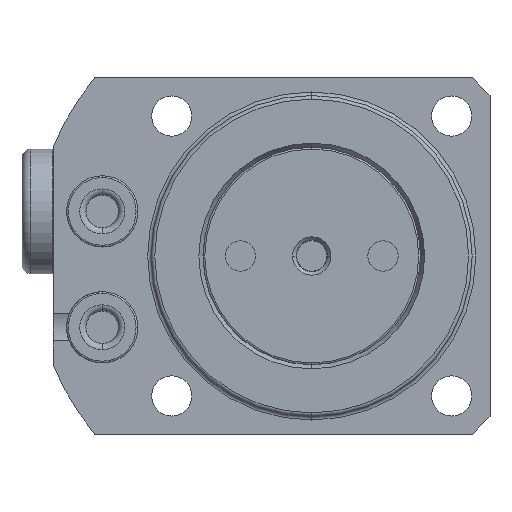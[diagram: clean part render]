
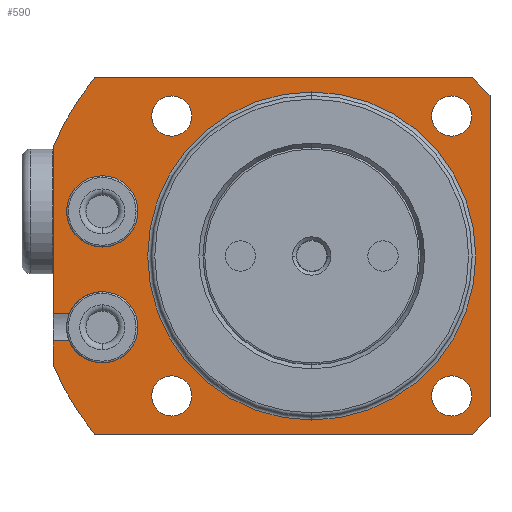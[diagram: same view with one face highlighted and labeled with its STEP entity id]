
A CAD part, front view. The second image highlights one B-rep face of the part: STEP entity #590.
In plain terms, the highlighted planar face has unit normal (0, -1, 0).
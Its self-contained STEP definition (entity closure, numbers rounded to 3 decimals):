
#267=PLANE('',#3778);
#326=FACE_BOUND('',#1059,.T.);
#327=FACE_BOUND('',#1060,.T.);
#328=FACE_BOUND('',#1061,.T.);
#329=FACE_BOUND('',#1062,.T.);
#330=FACE_BOUND('',#1063,.T.);
#331=FACE_BOUND('',#1064,.T.);
#332=FACE_BOUND('',#1065,.T.);
#590=ADVANCED_FACE('',(#326,#327,#328,#329,#330,#331,#332),#267,.T.);
#1059=EDGE_LOOP('',(#1761,#1762,#1763,#1764,#1765,#1766,#1767,#1768,#1769,
#1770,#1771,#1772,#1773,#1774));
#1060=EDGE_LOOP('',(#1775,#1776));
#1061=EDGE_LOOP('',(#1777,#1778));
#1062=EDGE_LOOP('',(#1779,#1780));
#1063=EDGE_LOOP('',(#1781,#1782));
#1064=EDGE_LOOP('',(#1783,#1784));
#1065=EDGE_LOOP('',(#1785,#1786));
#1343=LINE('',#5993,#1504);
#1344=LINE('',#5996,#1505);
#1345=LINE('',#5998,#1506);
#1346=LINE('',#6002,#1507);
#1347=LINE('',#6004,#1508);
#1348=LINE('',#6006,#1509);
#1349=LINE('',#6008,#1510);
#1350=LINE('',#6010,#1511);
#1351=LINE('',#6014,#1512);
#1504=VECTOR('',#4462,1.);
#1505=VECTOR('',#4465,1.);
#1506=VECTOR('',#4466,1.);
#1507=VECTOR('',#4469,1.);
#1508=VECTOR('',#4470,1.);
#1509=VECTOR('',#4471,1.);
#1510=VECTOR('',#4472,1.);
#1511=VECTOR('',#4473,1.);
#1512=VECTOR('',#4476,1.);
#1761=ORIENTED_EDGE('',*,*,#3029,.F.);
#1762=ORIENTED_EDGE('',*,*,#2908,.F.);
#1763=ORIENTED_EDGE('',*,*,#3030,.F.);
#1764=ORIENTED_EDGE('',*,*,#2910,.F.);
#1765=ORIENTED_EDGE('',*,*,#3031,.F.);
#1766=ORIENTED_EDGE('',*,*,#3032,.T.);
#1767=ORIENTED_EDGE('',*,*,#3033,.T.);
#1768=ORIENTED_EDGE('',*,*,#3034,.T.);
#1769=ORIENTED_EDGE('',*,*,#3035,.T.);
#1770=ORIENTED_EDGE('',*,*,#3036,.T.);
#1771=ORIENTED_EDGE('',*,*,#3037,.T.);
#1772=ORIENTED_EDGE('',*,*,#3038,.T.);
#1773=ORIENTED_EDGE('',*,*,#3039,.T.);
#1774=ORIENTED_EDGE('',*,*,#3040,.T.);
#1775=ORIENTED_EDGE('',*,*,#3041,.F.);
#1776=ORIENTED_EDGE('',*,*,#2904,.F.);
#1777=ORIENTED_EDGE('',*,*,#2932,.F.);
#1778=ORIENTED_EDGE('',*,*,#3042,.F.);
#1779=ORIENTED_EDGE('',*,*,#2940,.F.);
#1780=ORIENTED_EDGE('',*,*,#3043,.F.);
#1781=ORIENTED_EDGE('',*,*,#2948,.F.);
#1782=ORIENTED_EDGE('',*,*,#3044,.F.);
#1783=ORIENTED_EDGE('',*,*,#2956,.F.);
#1784=ORIENTED_EDGE('',*,*,#3045,.F.);
#1785=ORIENTED_EDGE('',*,*,#3046,.F.);
#1786=ORIENTED_EDGE('',*,*,#3006,.F.);
#2601=VERTEX_POINT('',#5440);
#2602=VERTEX_POINT('',#5442);
#2605=VERTEX_POINT('',#5449);
#2606=VERTEX_POINT('',#5451);
#2607=VERTEX_POINT('',#5456);
#2608=VERTEX_POINT('',#5458);
#2627=VERTEX_POINT('',#5596);
#2628=VERTEX_POINT('',#5597);
#2635=VERTEX_POINT('',#5644);
#2636=VERTEX_POINT('',#5645);
#2643=VERTEX_POINT('',#5692);
#2644=VERTEX_POINT('',#5693);
#2651=VERTEX_POINT('',#5740);
#2652=VERTEX_POINT('',#5741);
#2691=VERTEX_POINT('',#5872);
#2692=VERTEX_POINT('',#5874);
#2707=VERTEX_POINT('',#5994);
#2708=VERTEX_POINT('',#5997);
#2709=VERTEX_POINT('',#5999);
#2710=VERTEX_POINT('',#6001);
#2711=VERTEX_POINT('',#6003);
#2712=VERTEX_POINT('',#6005);
#2713=VERTEX_POINT('',#6007);
#2714=VERTEX_POINT('',#6009);
#2715=VERTEX_POINT('',#6011);
#2716=VERTEX_POINT('',#6013);
#2904=EDGE_CURVE('',#2601,#2602,#3383,.T.);
#2908=EDGE_CURVE('',#2605,#2606,#3385,.T.);
#2910=EDGE_CURVE('',#2607,#2608,#3386,.T.);
#2932=EDGE_CURVE('',#2627,#2628,#3392,.T.);
#2940=EDGE_CURVE('',#2635,#2636,#3395,.T.);
#2948=EDGE_CURVE('',#2643,#2644,#3398,.T.);
#2956=EDGE_CURVE('',#2651,#2652,#3401,.T.);
#3006=EDGE_CURVE('',#2691,#2692,#3432,.T.);
#3029=EDGE_CURVE('',#2606,#2707,#1343,.T.);
#3030=EDGE_CURVE('',#2608,#2605,#3442,.T.);
#3031=EDGE_CURVE('',#2708,#2607,#1344,.T.);
#3032=EDGE_CURVE('',#2708,#2709,#1345,.T.);
#3033=EDGE_CURVE('',#2709,#2710,#3443,.T.);
#3034=EDGE_CURVE('',#2710,#2711,#1346,.T.);
#3035=EDGE_CURVE('',#2711,#2712,#1347,.T.);
#3036=EDGE_CURVE('',#2712,#2713,#1348,.T.);
#3037=EDGE_CURVE('',#2713,#2714,#1349,.T.);
#3038=EDGE_CURVE('',#2714,#2715,#1350,.T.);
#3039=EDGE_CURVE('',#2715,#2716,#3444,.T.);
#3040=EDGE_CURVE('',#2716,#2707,#1351,.T.);
#3041=EDGE_CURVE('',#2602,#2601,#3445,.T.);
#3042=EDGE_CURVE('',#2628,#2627,#3446,.T.);
#3043=EDGE_CURVE('',#2636,#2635,#3447,.T.);
#3044=EDGE_CURVE('',#2644,#2643,#3448,.T.);
#3045=EDGE_CURVE('',#2652,#2651,#3449,.T.);
#3046=EDGE_CURVE('',#2692,#2691,#3450,.T.);
#3383=CIRCLE('',#3678,4.);
#3385=CIRCLE('',#3681,4.);
#3386=CIRCLE('',#3682,4.);
#3392=CIRCLE('',#3695,2.25);
#3395=CIRCLE('',#3700,2.25);
#3398=CIRCLE('',#3705,2.25);
#3401=CIRCLE('',#3710,2.25);
#3432=CIRCLE('',#3754,18.4);
#3442=CIRCLE('',#3769,4.);
#3443=CIRCLE('',#3770,31.5);
#3444=CIRCLE('',#3771,31.5);
#3445=CIRCLE('',#3772,4.);
#3446=CIRCLE('',#3773,2.25);
#3447=CIRCLE('',#3774,2.25);
#3448=CIRCLE('',#3775,2.25);
#3449=CIRCLE('',#3776,2.25);
#3450=CIRCLE('',#3777,18.4);
#3678=AXIS2_PLACEMENT_3D('',#5441,#4229,#4230);
#3681=AXIS2_PLACEMENT_3D('',#5450,#4237,#4238);
#3682=AXIS2_PLACEMENT_3D('',#5457,#4239,#4240);
#3695=AXIS2_PLACEMENT_3D('',#5595,#4278,#4279);
#3700=AXIS2_PLACEMENT_3D('',#5643,#4292,#4293);
#3705=AXIS2_PLACEMENT_3D('',#5691,#4306,#4307);
#3710=AXIS2_PLACEMENT_3D('',#5739,#4320,#4321);
#3754=AXIS2_PLACEMENT_3D('',#5873,#4426,#4427);
#3769=AXIS2_PLACEMENT_3D('',#5995,#4463,#4464);
#3770=AXIS2_PLACEMENT_3D('',#6000,#4467,#4468);
#3771=AXIS2_PLACEMENT_3D('',#6012,#4474,#4475);
#3772=AXIS2_PLACEMENT_3D('',#6015,#4477,#4478);
#3773=AXIS2_PLACEMENT_3D('',#6016,#4479,#4480);
#3774=AXIS2_PLACEMENT_3D('',#6017,#4481,#4482);
#3775=AXIS2_PLACEMENT_3D('',#6018,#4483,#4484);
#3776=AXIS2_PLACEMENT_3D('',#6019,#4485,#4486);
#3777=AXIS2_PLACEMENT_3D('',#6020,#4487,#4488);
#3778=AXIS2_PLACEMENT_3D('',#6021,#4489,#4490);
#4229=DIRECTION('',(0.,-1.,0.));
#4230=DIRECTION('',(0.,0.,-1.));
#4237=DIRECTION('',(0.,-1.,0.));
#4238=DIRECTION('',(0.,0.,-1.));
#4239=DIRECTION('',(0.,-1.,0.));
#4240=DIRECTION('',(0.,0.,-1.));
#4278=DIRECTION('',(0.,-1.,0.));
#4279=DIRECTION('',(0.,0.,-1.));
#4292=DIRECTION('',(0.,-1.,0.));
#4293=DIRECTION('',(0.,0.,-1.));
#4306=DIRECTION('',(0.,-1.,0.));
#4307=DIRECTION('',(0.,0.,-1.));
#4320=DIRECTION('',(0.,-1.,0.));
#4321=DIRECTION('',(0.,0.,-1.));
#4426=DIRECTION('',(0.,-1.,0.));
#4427=DIRECTION('',(0.,0.,-1.));
#4462=DIRECTION('',(-1.,0.,0.));
#4463=DIRECTION('',(0.,-1.,0.));
#4464=DIRECTION('',(0.,0.,-1.));
#4465=DIRECTION('',(1.,0.,0.));
#4466=DIRECTION('',(0.,0.,-1.));
#4467=DIRECTION('',(0.,-1.,0.));
#4468=DIRECTION('',(0.,0.,-1.));
#4469=DIRECTION('',(1.,0.,0.));
#4470=DIRECTION('',(0.707,0.,0.707));
#4471=DIRECTION('',(0.,0.,1.));
#4472=DIRECTION('',(-0.707,0.,0.707));
#4473=DIRECTION('',(-1.,0.,0.));
#4474=DIRECTION('',(0.,-1.,0.));
#4475=DIRECTION('',(0.,0.,-1.));
#4476=DIRECTION('',(0.,0.,-1.));
#4477=DIRECTION('',(0.,-1.,0.));
#4478=DIRECTION('',(0.,0.,-1.));
#4479=DIRECTION('',(0.,-1.,0.));
#4480=DIRECTION('',(0.,0.,-1.));
#4481=DIRECTION('',(0.,-1.,0.));
#4482=DIRECTION('',(0.,0.,-1.));
#4483=DIRECTION('',(0.,-1.,0.));
#4484=DIRECTION('',(0.,0.,-1.));
#4485=DIRECTION('',(0.,-1.,0.));
#4486=DIRECTION('',(0.,0.,-1.));
#4487=DIRECTION('',(0.,-1.,0.));
#4488=DIRECTION('',(0.,0.,-1.));
#4489=DIRECTION('',(0.,-1.,0.));
#4490=DIRECTION('',(0.,0.,1.));
#5440=CARTESIAN_POINT('',(-23.5,27.628,9.));
#5441=CARTESIAN_POINT('',(-23.5,27.628,5.));
#5442=CARTESIAN_POINT('',(-23.5,27.628,1.));
#5449=CARTESIAN_POINT('',(-23.5,27.628,-4.));
#5450=CARTESIAN_POINT('',(-23.5,27.628,-8.));
#5451=CARTESIAN_POINT('',(-27.2,27.628,-6.48));
#5456=CARTESIAN_POINT('',(-27.2,27.628,-9.52));
#5457=CARTESIAN_POINT('',(-23.5,27.628,-8.));
#5458=CARTESIAN_POINT('',(-23.5,27.628,-12.));
#5595=CARTESIAN_POINT('',(-15.7,27.628,-15.7));
#5596=CARTESIAN_POINT('',(-15.7,27.628,-13.45));
#5597=CARTESIAN_POINT('',(-15.7,27.628,-17.95));
#5643=CARTESIAN_POINT('',(-15.7,27.628,15.7));
#5644=CARTESIAN_POINT('',(-15.7,27.628,17.95));
#5645=CARTESIAN_POINT('',(-15.7,27.628,13.45));
#5691=CARTESIAN_POINT('',(15.7,27.628,15.7));
#5692=CARTESIAN_POINT('',(15.7,27.628,17.95));
#5693=CARTESIAN_POINT('',(15.7,27.628,13.45));
#5739=CARTESIAN_POINT('',(15.7,27.628,-15.7));
#5740=CARTESIAN_POINT('',(15.7,27.628,-13.45));
#5741=CARTESIAN_POINT('',(15.7,27.628,-17.95));
#5872=CARTESIAN_POINT('',(0.,27.628,18.4));
#5873=CARTESIAN_POINT('',(0.,27.628,0.));
#5874=CARTESIAN_POINT('',(0.,27.628,-18.4));
#5993=CARTESIAN_POINT('',(-24.,27.628,-6.48));
#5994=CARTESIAN_POINT('',(-29.,27.628,-6.48));
#5995=CARTESIAN_POINT('',(-23.5,27.628,-8.));
#5996=CARTESIAN_POINT('',(-24.,27.628,-9.52));
#5997=CARTESIAN_POINT('',(-29.,27.628,-9.52));
#5998=CARTESIAN_POINT('',(-29.,27.628,0.));
#5999=CARTESIAN_POINT('',(-29.,27.628,-12.298));
#6000=CARTESIAN_POINT('',(0.,27.628,0.));
#6001=CARTESIAN_POINT('',(-24.336,27.628,-20.));
#6002=CARTESIAN_POINT('',(31.5,27.628,-20.));
#6003=CARTESIAN_POINT('',(18.,27.628,-20.));
#6004=CARTESIAN_POINT('',(34.75,27.628,-3.25));
#6005=CARTESIAN_POINT('',(20.,27.628,-18.));
#6006=CARTESIAN_POINT('',(20.,27.628,0.));
#6007=CARTESIAN_POINT('',(20.,27.628,18.));
#6008=CARTESIAN_POINT('',(34.75,27.628,3.25));
#6009=CARTESIAN_POINT('',(18.,27.628,20.));
#6010=CARTESIAN_POINT('',(31.5,27.628,20.));
#6011=CARTESIAN_POINT('',(-24.336,27.628,20.));
#6012=CARTESIAN_POINT('',(0.,27.628,0.));
#6013=CARTESIAN_POINT('',(-29.,27.628,12.298));
#6014=CARTESIAN_POINT('',(-29.,27.628,0.));
#6015=CARTESIAN_POINT('',(-23.5,27.628,5.));
#6016=CARTESIAN_POINT('',(-15.7,27.628,-15.7));
#6017=CARTESIAN_POINT('',(-15.7,27.628,15.7));
#6018=CARTESIAN_POINT('',(15.7,27.628,15.7));
#6019=CARTESIAN_POINT('',(15.7,27.628,-15.7));
#6020=CARTESIAN_POINT('',(0.,27.628,0.));
#6021=CARTESIAN_POINT('',(31.5,27.628,0.));
